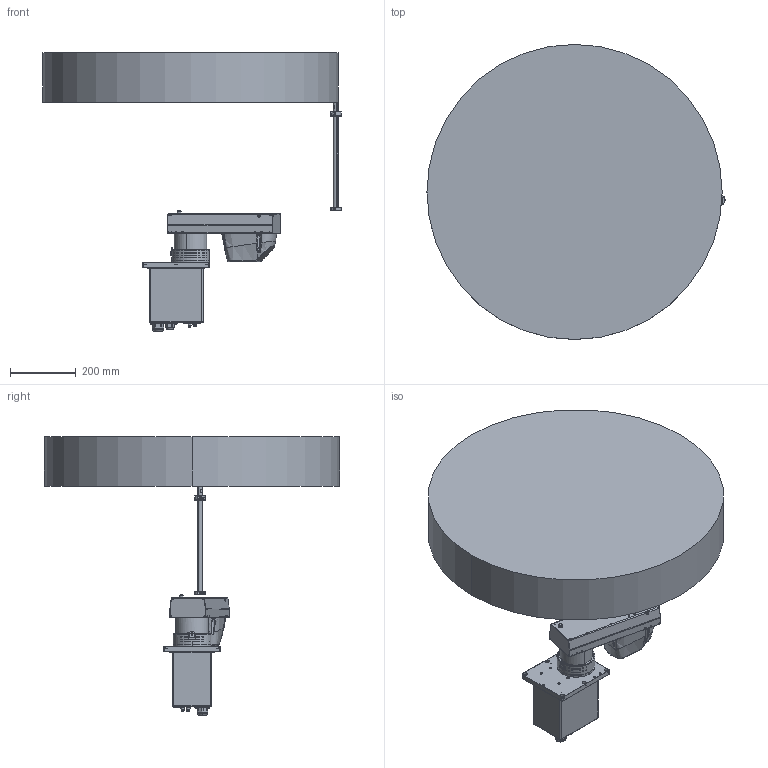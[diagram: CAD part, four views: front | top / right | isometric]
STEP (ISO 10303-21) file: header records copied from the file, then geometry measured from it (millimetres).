
FILE_DESCRIPTION (( 'STEP AP214' ), '1' );
FILE_NAME ('ST5-R450 衄LOGO湍堍雄毓峓2017.STEP', '2024-01-27T06:42:36', ( '' ), ( '' ), 'SwSTEP 2.0', 'SolidWorks 2017', '' );
FILE_SCHEMA (( 'AUTOMOTIVE_DESIGN' ));
Length unit declared in the file: millimetre
Products named in the file (6): 复件 ST5-R450运动范围^ST5-R450 有LOGO带运动范围2017; 复件 丝杆^ST5-R450 有LOGO带运动范围2017; 复件 ST4-R450-03 小臂有logo^ST5-R450 有LOGO带运动范围2017; 复件 ST5-R450-02 J2部分^ST5-R450 有LOGO带运动范围2017; ST5-R450 衄LOGO湍堍雄毓峓2017; 复件 ST5-R450-01 J1部分^ST5-R450 有LOGO带运动范围2017
Assembly tree (5 placements, depth 2):
  ST5-R450 衄LOGO湍堍雄毓峓2017
    复件 ST5-R450-01 J1部分^ST5-R450 有LOGO带运动范围2017
    复件 ST5-R450-02 J2部分^ST5-R450 有LOGO带运动范围2017
    复件 ST4-R450-03 小臂有logo^ST5-R450 有LOGO带运动范围2017
    复件 丝杆^ST5-R450 有LOGO带运动范围2017
    复件 ST5-R450运动范围^ST5-R450 有LOGO带运动范围2017
Bounding box: 909.06 x 900 x 848.5 mm (x, y, z)
Volume: 101952581.9 mm3; surface area: 2241590.4 mm2
Topology: 33 solids, 79 shells, 2132 faces, 5157 edges, 3303 vertices
Faces by surface type: plane 896, cylinder 598, cone 377, bspline 144, torus 112, sphere 5
Entity records: 224147 total; most frequent: CARTESIAN_POINT 106771, ORIENTED_EDGE 22451, DIRECTION 20376, EDGE_CURVE 11227, AXIS2_PLACEMENT_3D 7362, VERTEX_POINT 7257, VECTOR 5652, LINE 5652
